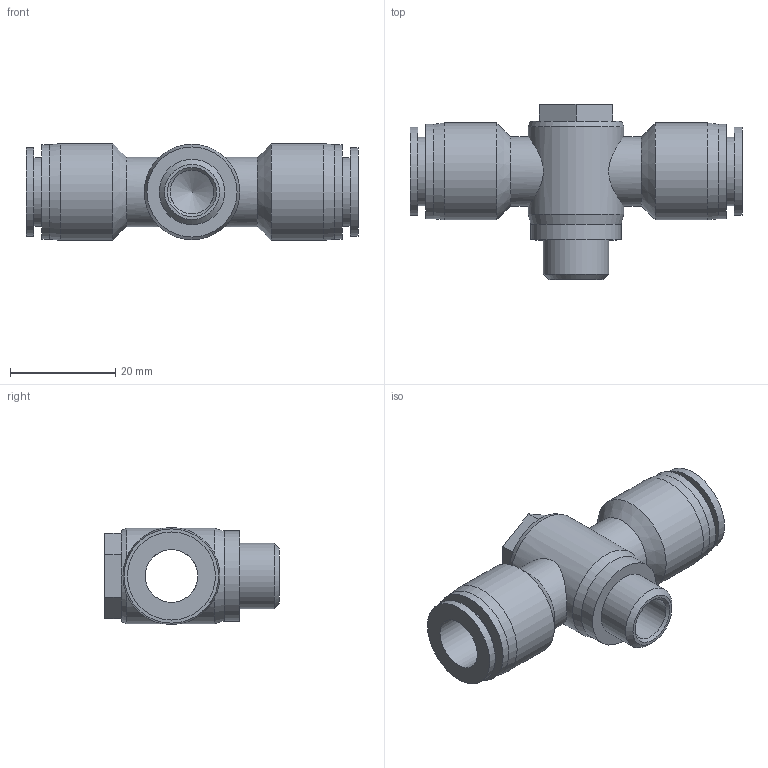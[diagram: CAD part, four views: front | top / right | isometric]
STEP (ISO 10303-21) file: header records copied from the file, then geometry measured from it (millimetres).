
FILE_DESCRIPTION(/* description */ (''),/* implementation_level */ '2;1');
FILE_NAME(/* name */ 'S:\UTecnico\ArchivioUT\Speciali Clienti\Speciali KONFIT\DISEGNI 3D\RP\RP 66\RP661410.stp',/* time_stamp */ '2013-08-01T10:26:55+02:00',/* author */ ('UT5'),/* organization */ (''),/* preprocessor_version */ 'ST-DEVELOPER v15.2',/* originating_system */ 'Autodesk Inventor 2014',/* authorisation */ '');
FILE_SCHEMA (('AUTOMOTIVE_DESIGN { 1 0 10303 214 3 1 1 }'));
Length unit declared in the file: millimetre
Products named in the file (1): RP661410
Bounding box: 63 x 33.2 x 18.4 mm (x, y, z)
Volume: 11430.5 mm3; surface area: 7501.6 mm2
Topology: 1 solids, 1 shells, 41 faces, 88 edges, 55 vertices
Faces by surface type: plane 16, cylinder 16, cone 9
Full cylindrical faces by diameter (mm): 8.3 x2, 10 x1, 12.426 x1, 13 x2, 13.2 x2, 16.7 x2, 17.1 x1, 17.9 x2, 18.1 x1, 18.4 x2
Entity records: 1101 total; most frequent: CARTESIAN_POINT 290, DIRECTION 164, ORIENTED_EDGE 106, EDGE_LOOP 78, AXIS2_PLACEMENT_3D 73, EDGE_CURVE 53, VERTEX_POINT 47, FACE_BOUND 44
